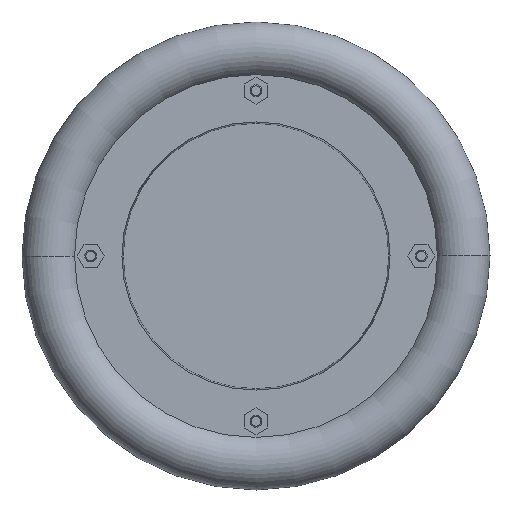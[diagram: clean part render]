
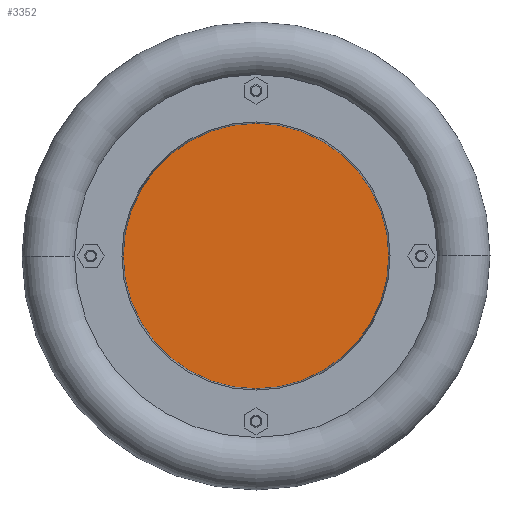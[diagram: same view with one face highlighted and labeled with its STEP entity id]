
A CAD part, front view. The second image highlights one B-rep face of the part: STEP entity #3352.
In plain terms, the highlighted planar face has unit normal (0, -1, 0).
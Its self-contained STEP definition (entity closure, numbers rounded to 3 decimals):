
#463=CARTESIAN_POINT('',(0.,-9.,0.));
#464=DIRECTION('',(0.,1.,0.));
#465=DIRECTION('',(1.,0.,0.));
#466=AXIS2_PLACEMENT_3D('',#463,#464,#465);
#471=CARTESIAN_POINT('',(0.,-9.,0.));
#472=DIRECTION('',(0.,-1.,0.));
#473=DIRECTION('',(1.,0.,0.));
#474=AXIS2_PLACEMENT_3D('',#471,#472,#473);
#2383=CARTESIAN_POINT('',(113.431,-9.,0.));
#2384=CARTESIAN_POINT('',(-113.431,-9.,
0.));
#2385=VERTEX_POINT('',#2383);
#2386=VERTEX_POINT('',#2384);
#3343=CARTESIAN_POINT('',(0.,-9.,0.));
#3344=DIRECTION('',(0.,-1.,0.));
#3345=DIRECTION('',(-1.,0.,0.));
#3346=AXIS2_PLACEMENT_3D('',#3343,#3344,#3345);
#3347=PLANE('',#3346);
#3348=ORIENTED_EDGE('',*,*,#3325,.T.);
#3349=ORIENTED_EDGE('',*,*,#3299,.F.);
#3350=EDGE_LOOP('',(#3348,#3349));
#3351=FACE_OUTER_BOUND('',#3350,.F.);
#3352=ADVANCED_FACE('',(#3351),#3347,.T.);
#467=CIRCLE('',#466,113.431);
#475=CIRCLE('',#474,113.431);
#3299=EDGE_CURVE('',#2385,#2386,#475,.T.);
#3325=EDGE_CURVE('',#2385,#2386,#467,.T.);
